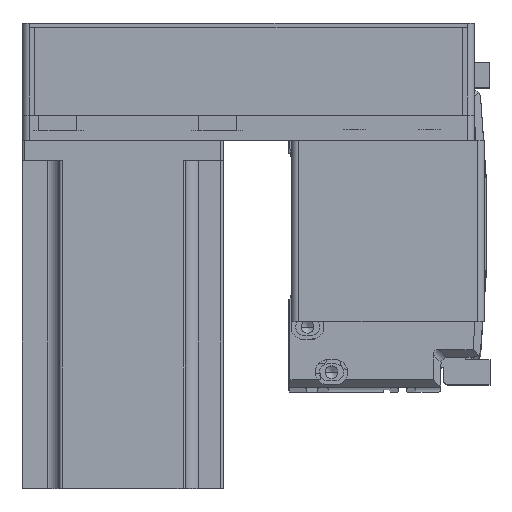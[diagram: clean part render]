
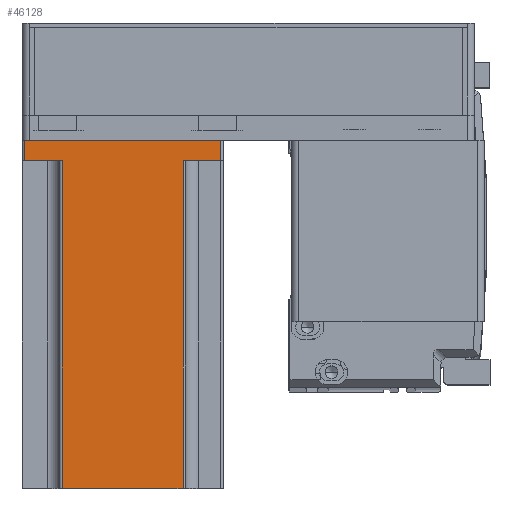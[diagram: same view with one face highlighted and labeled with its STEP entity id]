
A CAD part, top view. The second image highlights one B-rep face of the part: STEP entity #46128.
In plain terms, the highlighted planar face has unit normal (0, 0, 1) as drawn and (0, 1, 0) by its records, which use the part's own axes.
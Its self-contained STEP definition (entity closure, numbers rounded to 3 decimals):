
#1195 = EDGE_CURVE ( 'NONE', #33357, #33745, #26117, .T. ) ;
#2210 = DIRECTION ( 'NONE',  ( 0., 0., 1. ) ) ;
#2418 = VERTEX_POINT ( 'NONE', #30345 ) ;
#2895 = AXIS2_PLACEMENT_3D ( 'NONE', #8916, #36188, #12805 ) ;
#2948 = LINE ( 'NONE', #15065, #22435 ) ;
#3235 = VERTEX_POINT ( 'NONE', #49879 ) ;
#8916 = CARTESIAN_POINT ( 'NONE',  ( 40., 40., 138.3 ) ) ;
#10317 = CARTESIAN_POINT ( 'NONE',  ( -24., 40., 8. ) ) ;
#12805 = DIRECTION ( 'NONE',  ( 1., 0., 0. ) ) ;
#13544 = EDGE_CURVE ( 'NONE', #40924, #2418, #34374, .T. ) ;
#13971 = VECTOR ( 'NONE', #14082, 1000. ) ;
#14082 = DIRECTION ( 'NONE',  ( -1., 0., 0. ) ) ;
#14374 = EDGE_LOOP ( 'NONE', ( #43731, #41056, #47312, #18149, #49426, #29281, #36416, #45250 ) ) ;
#15065 = CARTESIAN_POINT ( 'NONE',  ( 40., 40., 0. ) ) ;
#15548 = DIRECTION ( 'NONE',  ( -1., 0., 0. ) ) ;
#15707 = CARTESIAN_POINT ( 'NONE',  ( -25., 40., 8. ) ) ;
#15727 = VECTOR ( 'NONE', #33906, 1000. ) ;
#18016 = LINE ( 'NONE', #39154, #27222 ) ;
#18149 = ORIENTED_EDGE ( 'NONE', *, *, #1195, .T. ) ;
#20396 = PLANE ( 'NONE',  #2895 ) ;
#20989 = CARTESIAN_POINT ( 'NONE',  ( 24., 40., 8. ) ) ;
#22435 = VECTOR ( 'NONE', #50332, 1000. ) ;
#23130 = LINE ( 'NONE', #34668, #42187 ) ;
#24325 = LINE ( 'NONE', #29565, #13971 ) ;
#25059 = EDGE_CURVE ( 'NONE', #3235, #32618, #23130, .T. ) ;
#25117 = EDGE_CURVE ( 'NONE', #33357, #2418, #31795, .T. ) ;
#25169 = EDGE_CURVE ( 'NONE', #46724, #40924, #48855, .T. ) ;
#25562 = CARTESIAN_POINT ( 'NONE',  ( -39., 40., 0. ) ) ;
#26117 = LINE ( 'NONE', #41993, #15727 ) ;
#27222 = VECTOR ( 'NONE', #43063, 1000. ) ;
#29281 = ORIENTED_EDGE ( 'NONE', *, *, #25059, .T. ) ;
#29565 = CARTESIAN_POINT ( 'NONE',  ( 25., 40., 8. ) ) ;
#30345 = CARTESIAN_POINT ( 'NONE',  ( -24., 40., 138.3 ) ) ;
#30564 = VECTOR ( 'NONE', #15548, 1000. ) ;
#31395 = DIRECTION ( 'NONE',  ( 1., 0., 0. ) ) ;
#31795 = LINE ( 'NONE', #38930, #30564 ) ;
#32618 = VERTEX_POINT ( 'NONE', #44469 ) ;
#33357 = VERTEX_POINT ( 'NONE', #41742 ) ;
#33684 = CARTESIAN_POINT ( 'NONE',  ( -39., 40., 8. ) ) ;
#33745 = VERTEX_POINT ( 'NONE', #20989 ) ;
#33906 = DIRECTION ( 'NONE',  ( 0., 0., -1. ) ) ;
#34374 = LINE ( 'NONE', #41124, #39844 ) ;
#34668 = CARTESIAN_POINT ( 'NONE',  ( 39., 40., 138.3 ) ) ;
#36188 = DIRECTION ( 'NONE',  ( 0., -1., 0. ) ) ;
#36416 = ORIENTED_EDGE ( 'NONE', *, *, #37601, .T. ) ;
#37413 = EDGE_CURVE ( 'NONE', #3235, #33745, #24325, .T. ) ;
#37601 = EDGE_CURVE ( 'NONE', #32618, #44806, #2948, .T. ) ;
#38595 = DIRECTION ( 'NONE',  ( 0., 0., -1. ) ) ;
#38930 = CARTESIAN_POINT ( 'NONE',  ( 40., 40., 138.3 ) ) ;
#39154 = CARTESIAN_POINT ( 'NONE',  ( -39., 40., 138.3 ) ) ;
#39639 = FACE_OUTER_BOUND ( 'NONE', #14374, .T. ) ;
#39844 = VECTOR ( 'NONE', #2210, 1000. ) ;
#40924 = VERTEX_POINT ( 'NONE', #10317 ) ;
#41056 = ORIENTED_EDGE ( 'NONE', *, *, #13544, .T. ) ;
#41124 = CARTESIAN_POINT ( 'NONE',  ( -24., 40., 138.3 ) ) ;
#41742 = CARTESIAN_POINT ( 'NONE',  ( 24., 40., 138.3 ) ) ;
#41993 = CARTESIAN_POINT ( 'NONE',  ( 24., 40., 138.3 ) ) ;
#42187 = VECTOR ( 'NONE', #38595, 1000. ) ;
#43063 = DIRECTION ( 'NONE',  ( 0., 0., 1. ) ) ;
#43731 = ORIENTED_EDGE ( 'NONE', *, *, #25169, .T. ) ;
#44469 = CARTESIAN_POINT ( 'NONE',  ( 39., 40., 0. ) ) ;
#44806 = VERTEX_POINT ( 'NONE', #25562 ) ;
#45250 = ORIENTED_EDGE ( 'NONE', *, *, #48351, .T. ) ;
#46128 = ADVANCED_FACE ( 'NONE', ( #39639 ), #20396, .F. ) ;
#46724 = VERTEX_POINT ( 'NONE', #33684 ) ;
#47312 = ORIENTED_EDGE ( 'NONE', *, *, #25117, .F. ) ;
#47618 = VECTOR ( 'NONE', #31395, 1000. ) ;
#48351 = EDGE_CURVE ( 'NONE', #44806, #46724, #18016, .T. ) ;
#48855 = LINE ( 'NONE', #15707, #47618 ) ;
#49426 = ORIENTED_EDGE ( 'NONE', *, *, #37413, .F. ) ;
#49879 = CARTESIAN_POINT ( 'NONE',  ( 39., 40., 8. ) ) ;
#50332 = DIRECTION ( 'NONE',  ( -1., 0., 0. ) ) ;
